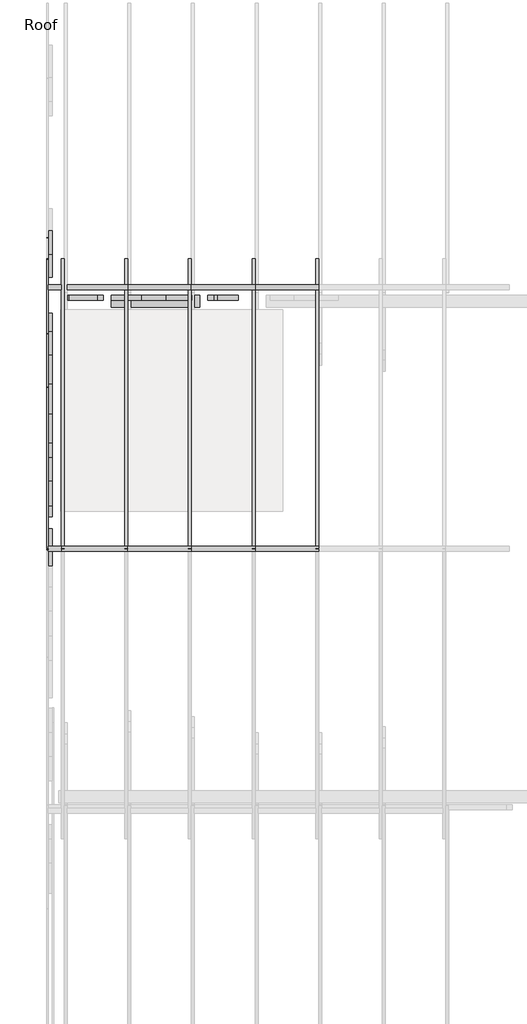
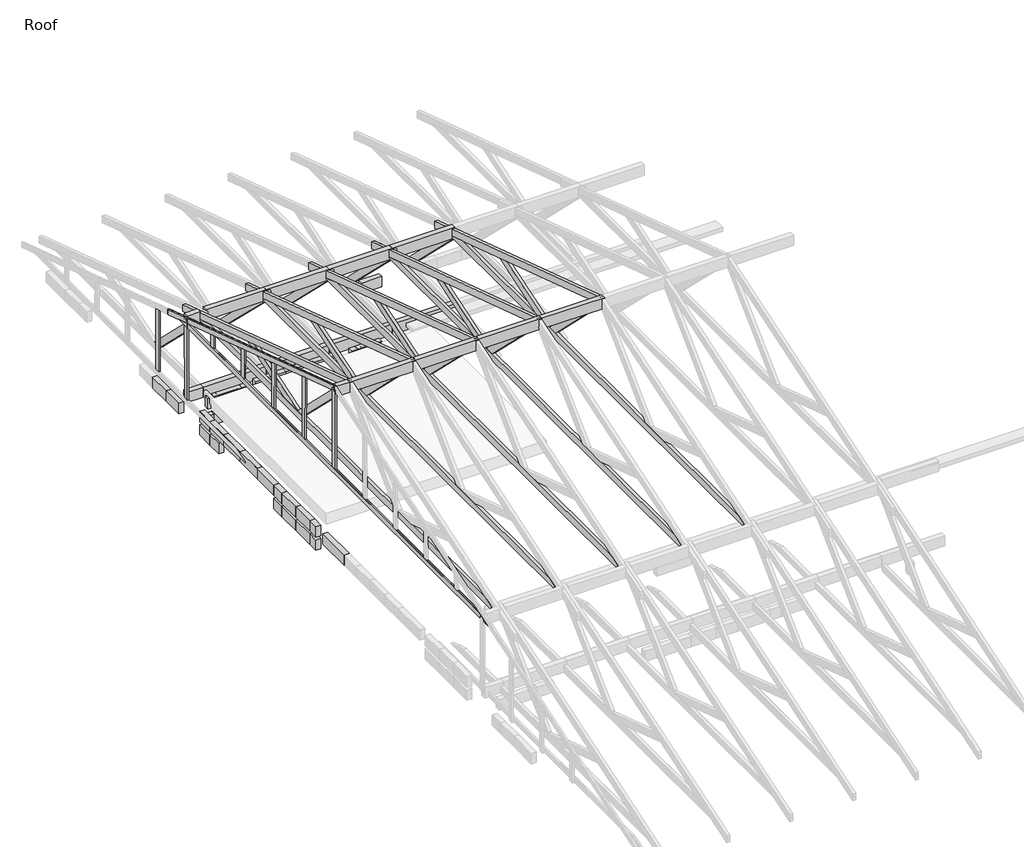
# One storey, part 3 of 5: 83 beams.
"""IFC4 building model written with IfcOpenShell, lengths in millimetres."""

from ifc_helpers import new_model, si_unit, frame, origin, place, context, project, spatial, polyline, outline, extrude, faceted_brep, transform, mapped, element, save
from components import beam_5691c770, beam_a14fae22, beam_a3a851c1, beam_51437148, beam_464ecb02, beam_fda0a2b8, experttrusspart_2_x_4_5d1fd198, experttrusspart_2_x_4_7bcd8695, beam_a2527db5, beam_27df2988, beam_13466e1a, beam_51b55d0f, beam_42965887, beam_8e5e3f5a, beam_c9832d0a, beam_8976df93, beam_ae29647c, beam_98c3b82b, beam_97ee1fa4, beam_d29d678d, beam_a4d90c35, beam_9d6aa0d6, beam_9a5d82eb, beam_3e93aa5a, beam_ed930484, beam_f3d449ce

model = new_model("IFC4")

# Units and contexts
model_context = context("Model", 3, world=origin())
ifc_project = project(units=[si_unit("LENGTHUNIT", "METRE", prefix="MILLI")], contexts=[model_context])

# Site, building, storey
site = spatial("IfcSite", under=ifc_project)
building = spatial("IfcBuilding", under=site)
storey = spatial("IfcBuildingStorey", under=building, Name="Roof", Elevation=4267.2)

# Beams
placement = place(None, origin())
element("IfcBeam", 1, ObjectType="BraceBeam : 1\" x 3\"", at=placement, inside=storey, context=model_context, shape_type="Brep", body=[
    faceted_brep([(-11532.8540766, -18312.6277279, 3403.00062), (-11513.8040766, -18312.6277279, 3403.00062), (-11513.8040766, -21970.2277279, 4596.80062), (-11532.8540766, -21970.2277279, 4596.80062), (-11513.8040766, -18312.6277279, 3436.3989898), (-11513.8040766, -18312.6277279, 3469.7973595), (-11513.8040766, -21970.2277279, 4663.5973595), (-11513.8040766, -21970.2277279, 4630.1989898), (-11532.8540766, -18312.6277279, 3469.7973595), (-11532.8540766, -21970.2277279, 4663.5973595), (-11532.8540766, -18312.6277279, 3436.3989898), (-11532.8540766, -21970.2277279, 4630.1989898)], [[[0, 1, 2, 3]], [[4, 5, 6, 7, 2, 1]], [[5, 8, 9, 6]], [[10, 0, 3, 11, 9, 8]], [[8, 5, 4, 1, 0, 10]], [[6, 9, 11, 3, 2, 7]]]),
    faceted_brep([(-11513.8040766, -18760.0431336, 3615.8287767), (-11513.8040766, -21970.2277279, 4663.5973595), (-11513.8040766, -21970.2277279, 4630.1989898), (-11513.8040766, -21970.2277279, 4596.80062), (-11513.8040766, -18760.0431336, 3549.0320372), (-11532.8540766, -21970.2277279, 4596.80062), (-11532.8540766, -18760.0431336, 3549.0320372), (-11532.8540766, -21970.2277279, 4663.5973595), (-11532.8540766, -21970.2277279, 4630.1989898), (-11532.8540766, -18760.0431336, 3615.8287767)], [[[0, 1, 2, 3, 4]], [[4, 3, 5, 6]], [[1, 7, 8, 5, 3, 2]], [[6, 5, 8, 7, 9]], [[9, 7, 1, 0]], [[4, 6, 9, 0]]]),
])
element("IfcBeam", 2, ObjectType="BraceBeam : 1\" x 3\"", at=placement, inside=storey, context=model_context, shape_type="Brep", body=[
    faceted_brep([(-11513.8040766, -25364.6841988, 3482.456975), (-11532.8540766, -25364.6841988, 3482.456975), (-11532.8540766, -18556.068475, 3482.456975), (-11513.8040766, -18556.068475, 3482.456975), (-11532.8540766, -25267.4076031, 3514.206975), (-11532.8540766, -25170.1310073, 3545.956975), (-11532.8540766, -18750.6216665, 3545.956975), (-11532.8540766, -18653.3450708, 3514.206975), (-11513.8040766, -25170.1310073, 3545.956975), (-11513.8040766, -18750.6216665, 3545.956975), (-11513.8040766, -25267.4076031, 3514.206975), (-11513.8040766, -18653.3450708, 3514.206975)], [[[0, 1, 2, 3]], [[4, 5, 6, 7, 2, 1]], [[5, 8, 9, 6]], [[10, 0, 3, 11, 9, 8]], [[8, 5, 4, 1, 0, 10]], [[6, 9, 11, 3, 2, 7]]]),
    faceted_brep([(-11513.8040766, -25364.6841988, 3482.456975), (-11532.8540766, -25364.6841988, 3482.456975), (-11532.8540766, -18760.0431336, 3482.456975), (-11513.8040766, -18760.0431336, 3482.456975), (-11513.8040766, -25170.1310073, 3545.956975), (-11532.8540766, -25170.1310073, 3545.956975), (-11532.8540766, -25267.4076031, 3514.206975), (-11513.8040766, -25267.4076031, 3514.206975), (-11532.8540766, -18760.0431336, 3545.956975), (-11513.8040766, -18760.0431336, 3545.956975)], [[[0, 1, 2, 3]], [[4, 5, 6, 1, 0, 7]], [[6, 5, 8, 2, 1]], [[7, 0, 3, 9, 4]], [[5, 4, 9, 8]], [[3, 2, 8, 9]]]),
    faceted_brep([(-11532.8540766, -25160.7763369, 3545.956975), (-11532.8540766, -18760.0431336, 3545.956975), (-11532.8540766, -18760.0431336, 3482.456975), (-11532.8540766, -25160.7763369, 3482.456975), (-11513.8040766, -18760.0431336, 3482.456975), (-11513.8040766, -25160.7763369, 3482.456975), (-11513.8040766, -18760.0431336, 3545.956975), (-11513.8040766, -25160.7763369, 3545.956975)], [[[0, 1, 2, 3]], [[3, 2, 4, 5]], [[4, 2, 1, 6]], [[5, 4, 6, 7]], [[7, 6, 1, 0]], [[3, 5, 7, 0]]]),
])
element("IfcBeam", 3, ObjectType="BraceBeam : 1\" x 3\"", at=placement, inside=storey, context=model_context, shape_type="SweptSolid", body=[
    extrude(outline(polyline([(1236.4407967, 0.0), (176.1684028, 0.0), (165.8055555, 31.75), (176.1684028, 63.4999999), (1236.4407967, 63.4999999), (1236.4407967, 0.0)])), frame((-11532.8540766, -18729.7582425, 3738.3724857), z_axis=(1.0, -1.9616564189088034e-12, 0.0), x_axis=(0.0, -0.0009999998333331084, -0.9999995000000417)), (0.0, 0.0, 1.0), 19.05),
])
element("IfcBeam", 4, ObjectType="BraceBeam : 1\" x 3\"", at=placement, inside=storey, context=model_context, shape_type="Brep", body=[
    faceted_brep([(-11513.8040766, -18302.7763369, 3399.7852354), (-11513.8040766, -21960.3763369, 4593.5852354), (-11532.8540766, -21960.3763369, 4593.5852354), (-11532.8540766, -18302.7763369, 3399.7852354), (-11532.8540766, -18302.7763369, 3433.1836052), (-11532.8540766, -21960.3763369, 4626.9836052), (-11532.8540766, -21960.3763369, 4660.381975), (-11532.8540766, -18302.7763369, 3466.581975), (-11513.8040766, -21960.3763369, 4660.381975), (-11513.8040766, -18302.7763369, 3466.581975), (-11513.8040766, -18302.7763369, 3433.1836052), (-11513.8040766, -21960.3763369, 4626.9836052)], [[[0, 1, 2, 3]], [[4, 3, 2, 5, 6, 7]], [[7, 6, 8, 9]], [[10, 9, 8, 11, 1, 0]], [[9, 10, 0, 3, 4, 7]], [[6, 5, 2, 1, 11, 8]]]),
])
beam_shape = beam_5691c770(model_context)
element("IfcBeam", 5, ObjectType="BraceBeam : 1\" x 3\"", at=placement, inside=storey, context=model_context, shape_type="MappedRepresentation", body=[
    mapped(beam_shape, transform((-11523.3290766, -21293.1737787, 3962.3751938), x_axis=(0.0, -0.009073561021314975, 0.9999588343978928), y_axis=(1.0, 0.0, 0.0), z_axis=(0.0, 0.9999588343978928, 0.009073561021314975))),
])
beam_2_shape = beam_a14fae22(model_context)
element("IfcBeam", 6, ObjectType="BraceBeam : 1\" x 3\"", at=placement, inside=storey, context=model_context, shape_type="MappedRepresentation", body=[
    mapped(beam_2_shape, transform((-11523.3290766, -20621.0005721, 3852.5327331), x_axis=(0.0, -0.009347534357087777, 0.9999563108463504), y_axis=(1.0, 0.0, 0.0), z_axis=(0.0, 0.9999563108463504, 0.009347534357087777))),
])
beam_3_shape = beam_a3a851c1(model_context)
element("IfcBeam", 7, ObjectType="BraceBeam : 1\" x 3\"", at=placement, inside=storey, context=model_context, shape_type="MappedRepresentation", body=[
    mapped(beam_3_shape, transform((-11523.3290766, -19948.8273655, 3742.6902724), x_axis=(0.0, -0.009884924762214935, 0.9999511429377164), y_axis=(1.0, 0.0, 0.0), z_axis=(0.0, 0.9999511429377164, 0.009884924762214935))),
])
beam_4_shape = beam_51437148(model_context)
element("IfcBeam", 8, ObjectType="BraceBeam : 1\" x 3\"", at=placement, inside=storey, context=model_context, shape_type="MappedRepresentation", body=[
    mapped(beam_4_shape, transform((-11523.3290766, -19276.6541589, 3632.8478118), x_axis=(0.0, -0.011417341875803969, 0.9999348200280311), y_axis=(1.0, 0.0, 0.0), z_axis=(0.0, 0.9999348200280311, 0.011417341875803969))),
])
beam_5_shape = beam_464ecb02(model_context)
element("IfcBeam", 9, ObjectType="BraceBeam : 1\" x 3\"", at=placement, inside=storey, context=model_context, shape_type="MappedRepresentation", body=[
    mapped(beam_5_shape, transform((-11523.3290766, -18065.8579037, 2913.1384019), x_axis=(0.0, -0.002024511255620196, 0.999997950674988), y_axis=(1.0, 0.0, 0.0), z_axis=(0.0, 0.999997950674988, 0.002024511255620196))),
])
beam_6_shape = beam_fda0a2b8(model_context)
element("IfcBeam", 10, ObjectType="BraceBeam : 1\" x 3\"", at=placement, inside=storey, context=model_context, shape_type="MappedRepresentation", body=[
    mapped(beam_6_shape, transform((-11523.3290766, -21959.8191245, 4103.1697536), x_axis=(0.0, -0.000999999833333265, 0.9999995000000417), y_axis=(1.0, 1.4638300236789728e-12, 0.0), z_axis=(-1.463829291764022e-12, 0.9999995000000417, 0.0009999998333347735))),
])
element("IfcBeam", 11, ObjectType="ExpertTrussPart : 2 x 4", at=placement, inside=storey, context=model_context, shape_type="SweptSolid", body=[
    extrude(outline(polyline([(-21793.4464104, 4512.3824664), (-20848.8530293, 3587.468114), (-20850.5374103, 3571.356975), (-20959.4672099, 3571.356975), (-21960.3763369, 4551.4138285), (-21960.3763369, 4566.8665396), (-21793.4464104, 4512.3824664)])), frame((-11346.7990766, 0.0, 0.0), z_axis=(1.0, 0.0, 0.0), x_axis=(0.0, 1.0, 0.0)), (0.0, 0.0, 1.0), 38.1),
])
element("IfcBeam", 12, ObjectType="ExpertTrussPart : 2 x 4", at=placement, inside=storey, context=model_context, shape_type="SweptSolid", body=[
    extrude(outline(polyline([(-19883.9561718, 3889.1460691), (-19812.3273277, 3865.7672102), (-19740.6984836, 3842.3883514), (-20571.0924881, 3571.356975), (-20850.5374103, 3571.356975), (-20850.2876203, 3573.7462213), (-19883.9561718, 3889.1460691)])), frame((-11346.7990766, 0.0, 0.0), z_axis=(1.0, 0.0, 0.0), x_axis=(0.0, 1.0, 0.0)), (0.0, 0.0, 1.0), 38.1),
])
element("IfcBeam", 13, ObjectType="ExpertTrussPart : 2 x 4", at=placement, inside=storey, context=model_context, shape_type="SweptSolid", body=[
    extrude(outline(polyline([(-21793.4464104, 4512.3824664), (-20848.8530293, 3587.468114), (-20850.5374103, 3571.356975), (-20959.4672099, 3571.356975), (-21960.3763369, 4551.4138285), (-21960.3763369, 4566.8665396), (-21793.4464104, 4512.3824664)])), frame((-10545.0057433, 0.0, 0.0), z_axis=(1.0, 0.0, 0.0), x_axis=(0.0, 1.0, 0.0)), (0.0, 0.0, 1.0), 38.1),
])
element("IfcBeam", 14, ObjectType="ExpertTrussPart : 2 x 4", at=placement, inside=storey, context=model_context, shape_type="SweptSolid", body=[
    extrude(outline(polyline([(-19883.9561718, 3889.1460691), (-19812.3273277, 3865.7672102), (-19740.6984836, 3842.3883514), (-20571.0924881, 3571.356975), (-20850.5374103, 3571.356975), (-20850.2876203, 3573.7462213), (-19883.9561718, 3889.1460691)])), frame((-10545.0057433, 0.0, 0.0), z_axis=(1.0, 0.0, 0.0), x_axis=(0.0, 1.0, 0.0)), (0.0, 0.0, 1.0), 38.1),
])
element("IfcBeam", 15, ObjectType="ExpertTrussPart : 2 x 4", at=placement, inside=storey, context=model_context, shape_type="SweptSolid", body=[
    extrude(outline(polyline([(-21793.4464104, 4512.3824664), (-20848.8530293, 3587.468114), (-20850.5374103, 3571.356975), (-20959.4672099, 3571.356975), (-21960.3763369, 4551.4138285), (-21960.3763369, 4566.8665396), (-21793.4464104, 4512.3824664)])), frame((-9743.2124099, 0.0, 0.0), z_axis=(1.0, 0.0, 0.0), x_axis=(0.0, 1.0, 0.0)), (0.0, 0.0, 1.0), 38.1),
])
element("IfcBeam", 16, ObjectType="ExpertTrussPart : 2 x 4", at=placement, inside=storey, context=model_context, shape_type="SweptSolid", body=[
    extrude(outline(polyline([(-19883.9561718, 3889.1460691), (-19812.3273277, 3865.7672102), (-19740.6984836, 3842.3883514), (-20571.0924881, 3571.356975), (-20850.5374103, 3571.356975), (-20850.2876203, 3573.7462213), (-19883.9561718, 3889.1460691)])), frame((-9743.2124099, 0.0, 0.0), z_axis=(1.0, 0.0, 0.0), x_axis=(0.0, 1.0, 0.0)), (0.0, 0.0, 1.0), 38.1),
])
element("IfcBeam", 17, ObjectType="ExpertTrussPart : 2 x 4", at=placement, inside=storey, context=model_context, shape_type="SweptSolid", body=[
    extrude(outline(polyline([(-21793.4464104, 4512.3824664), (-20848.8530293, 3587.468114), (-20850.5374103, 3571.356975), (-20959.4672099, 3571.356975), (-21960.3763369, 4551.4138285), (-21960.3763369, 4566.8665396), (-21793.4464104, 4512.3824664)])), frame((-8941.4190766, 0.0, 0.0), z_axis=(1.0, 0.0, 0.0), x_axis=(0.0, 1.0, 0.0)), (0.0, 0.0, 1.0), 38.1),
])
element("IfcBeam", 18, ObjectType="ExpertTrussPart : 2 x 4", at=placement, inside=storey, context=model_context, shape_type="SweptSolid", body=[
    extrude(outline(polyline([(-19883.9561718, 3889.1460691), (-19812.3273277, 3865.7672102), (-19740.6984836, 3842.3883514), (-20571.0924881, 3571.356975), (-20850.5374103, 3571.356975), (-20850.2876203, 3573.7462213), (-19883.9561718, 3889.1460691)])), frame((-8941.4190766, 0.0, 0.0), z_axis=(1.0, 0.0, 0.0), x_axis=(0.0, 1.0, 0.0)), (0.0, 0.0, 1.0), 38.1),
])
element("IfcBeam", 19, ObjectType="ExpertTrussPart : 2 x 4", at=placement, inside=storey, context=model_context, shape_type="SweptSolid", body=[
    extrude(outline(polyline([(-21793.4464104, 4512.3824664), (-20848.8530293, 3587.468114), (-20850.5374103, 3571.356975), (-20959.4672099, 3571.356975), (-21960.3763369, 4551.4138285), (-21960.3763369, 4566.8665396), (-21793.4464104, 4512.3824664)])), frame((-8139.6257433, 0.0, 0.0), z_axis=(1.0, 0.0, 0.0), x_axis=(0.0, 1.0, 0.0)), (0.0, 0.0, 1.0), 38.1),
])
element("IfcBeam", 20, ObjectType="ExpertTrussPart : 2 x 4", at=placement, inside=storey, context=model_context, shape_type="SweptSolid", body=[
    extrude(outline(polyline([(-19883.9561718, 3889.1460691), (-19812.3273277, 3865.7672102), (-19740.6984836, 3842.3883514), (-20571.0924881, 3571.356975), (-20850.5374103, 3571.356975), (-20850.2876203, 3573.7462213), (-19883.9561718, 3889.1460691)])), frame((-8139.6257433, 0.0, 0.0), z_axis=(1.0, 0.0, 0.0), x_axis=(0.0, 1.0, 0.0)), (0.0, 0.0, 1.0), 38.1),
])
element("IfcBeam", 21, ObjectType="ExpertTrussPart : 2 x 4", at=placement, inside=storey, context=model_context, shape_type="SweptSolid", body=[
    extrude(outline(polyline([(-18556.6000825, 3455.8898151), (-17624.7069666, 2543.4111391), (-17626.3913475, 2527.3), (-17735.3211471, 2527.3), (-18723.530009, 3494.9211772), (-18723.530009, 3510.3738883), (-18556.6000825, 3455.8898151)])), frame((-11308.6990766, 0.0, 0.0), z_axis=(1.0, 0.0, 0.0), x_axis=(0.0, 1.0, 0.0)), (0.0, 0.0, 1.0), 38.1),
])
element("IfcBeam", 22, ObjectType="ExpertTrussPart : 2 x 4", at=placement, inside=storey, context=model_context, shape_type="SweptSolid", body=[
    extrude(outline(polyline([(-18556.6000825, 3455.8898151), (-17624.7069666, 2543.4111391), (-17626.3913475, 2527.3), (-17735.3211471, 2527.3), (-18723.530009, 3494.9211772), (-18723.530009, 3510.3738883), (-18556.6000825, 3455.8898151)])), frame((-10506.9057433, 0.0, 0.0), z_axis=(1.0, 0.0, 0.0), x_axis=(0.0, 1.0, 0.0)), (0.0, 0.0, 1.0), 38.1),
])
element("IfcBeam", 23, ObjectType="ExpertTrussPart : 2 x 4", at=placement, inside=storey, context=model_context, shape_type="SweptSolid", body=[
    extrude(outline(polyline([(-18556.6000825, 3455.8898151), (-17624.7069666, 2543.4111391), (-17626.3913475, 2527.3), (-17735.3211471, 2527.3), (-18723.530009, 3494.9211772), (-18723.530009, 3510.3738883), (-18556.6000825, 3455.8898151)])), frame((-9705.1124099, 0.0, 0.0), z_axis=(1.0, 0.0, 0.0), x_axis=(0.0, 1.0, 0.0)), (0.0, 0.0, 1.0), 38.1),
])
element("IfcBeam", 24, ObjectType="ExpertTrussPart : 2 x 4", at=placement, inside=storey, context=model_context, shape_type="SweptSolid", body=[
    extrude(outline(polyline([(-18556.6000825, 3455.8898151), (-17624.7069666, 2543.4111391), (-17626.3913475, 2527.3), (-17735.3211471, 2527.3), (-18723.530009, 3494.9211772), (-18723.530009, 3510.3738883), (-18556.6000825, 3455.8898151)])), frame((-8903.3190766, 0.0, 0.0), z_axis=(1.0, 0.0, 0.0), x_axis=(0.0, 1.0, 0.0)), (0.0, 0.0, 1.0), 38.1),
])
element("IfcBeam", 25, ObjectType="ExpertTrussPart : 2 x 4", at=placement, inside=storey, context=model_context, shape_type="SweptSolid", body=[
    extrude(outline(polyline([(-18556.6000825, 3455.8898151), (-17624.7069666, 2543.4111391), (-17626.3913475, 2527.3), (-17735.3211471, 2527.3), (-18723.530009, 3494.9211772), (-18723.530009, 3510.3738883), (-18556.6000825, 3455.8898151)])), frame((-8101.5257433, 0.0, 0.0), z_axis=(1.0, 0.0, 0.0), x_axis=(0.0, 1.0, 0.0)), (0.0, 0.0, 1.0), 38.1),
])
experttrusspart_2_x_4_shape = experttrusspart_2_x_4_5d1fd198(model_context)
element("IfcBeam", 26, ObjectType="ExpertTrussPart : 2 x 4", at=placement, inside=storey, context=model_context, shape_type="MappedRepresentation", body=[
    mapped(experttrusspart_2_x_4_shape, transform((-11327.7490766, -21960.3763369, 3482.456975), x_axis=(0.0, -1.0, 0.0), y_axis=(1.0, 0.0, 0.0), z_axis=(0.0, 0.0, 1.0))),
])
element("IfcBeam", 27, ObjectType="ExpertTrussPart : 2 x 4", at=placement, inside=storey, context=model_context, shape_type="MappedRepresentation", body=[
    mapped(experttrusspart_2_x_4_shape, transform((-10525.9557433, -21960.3763369, 3482.456975), x_axis=(0.0, -1.0, 0.0), y_axis=(1.0, 0.0, 0.0), z_axis=(0.0, 0.0, 1.0))),
])
element("IfcBeam", 28, ObjectType="ExpertTrussPart : 2 x 4", at=placement, inside=storey, context=model_context, shape_type="MappedRepresentation", body=[
    mapped(experttrusspart_2_x_4_shape, transform((-9724.1624099, -21960.3763369, 3482.456975), x_axis=(0.0, -1.0, 0.0), y_axis=(1.0, 0.0, 0.0), z_axis=(0.0, 0.0, 1.0))),
])
element("IfcBeam", 29, ObjectType="ExpertTrussPart : 2 x 4", at=placement, inside=storey, context=model_context, shape_type="MappedRepresentation", body=[
    mapped(experttrusspart_2_x_4_shape, transform((-8922.3690766, -21960.3763369, 3482.456975), x_axis=(0.0, -1.0, 0.0), y_axis=(1.0, 0.0, 0.0), z_axis=(0.0, 0.0, 1.0))),
])
element("IfcBeam", 30, ObjectType="ExpertTrussPart : 2 x 4", at=placement, inside=storey, context=model_context, shape_type="MappedRepresentation", body=[
    mapped(experttrusspart_2_x_4_shape, transform((-8120.5757433, -21960.3763369, 3482.456975), x_axis=(0.0, -1.0, 0.0), y_axis=(1.0, 0.0, 0.0), z_axis=(0.0, 0.0, 1.0))),
])
experttrusspart_2_x_4_2_shape = experttrusspart_2_x_4_7bcd8695(model_context)
element("IfcBeam", 31, ObjectType="ExpertTrussPart : 2 x 4", at=placement, inside=storey, context=model_context, shape_type="MappedRepresentation", body=[
    mapped(experttrusspart_2_x_4_2_shape, transform((-11327.7490766, -20145.3682843, 3974.468078), x_axis=(0.0, 0.950645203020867, -0.3102800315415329), y_axis=(-1.0, 0.0, 0.0), z_axis=(0.0, 0.3102800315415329, 0.950645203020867))),
])
element("IfcBeam", 32, ObjectType="ExpertTrussPart : 2 x 4", at=placement, inside=storey, context=model_context, shape_type="MappedRepresentation", body=[
    mapped(experttrusspart_2_x_4_2_shape, transform((-10525.9557433, -20145.3682843, 3974.468078), x_axis=(0.0, 0.950645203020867, -0.3102800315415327), y_axis=(-1.0, 0.0, 0.0), z_axis=(0.0, 0.3102800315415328, 0.9506452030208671))),
])
element("IfcBeam", 33, ObjectType="ExpertTrussPart : 2 x 4", at=placement, inside=storey, context=model_context, shape_type="MappedRepresentation", body=[
    mapped(experttrusspart_2_x_4_2_shape, transform((-9724.1624099, -20145.3682843, 3974.468078), x_axis=(0.0, 0.9506452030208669, -0.310280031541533), y_axis=(-1.0, 0.0, 0.0), z_axis=(0.0, 0.31028003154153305, 0.950645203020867))),
])
element("IfcBeam", 34, ObjectType="ExpertTrussPart : 2 x 4", at=placement, inside=storey, context=model_context, shape_type="MappedRepresentation", body=[
    mapped(experttrusspart_2_x_4_2_shape, transform((-8922.3690766, -20145.3682843, 3974.468078), x_axis=(0.0, 0.950645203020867, -0.310280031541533), y_axis=(-1.0, 0.0, 0.0), z_axis=(0.0, 0.310280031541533, 0.950645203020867))),
])
element("IfcBeam", 35, ObjectType="ExpertTrussPart : 2 x 4", at=placement, inside=storey, context=model_context, shape_type="MappedRepresentation", body=[
    mapped(experttrusspart_2_x_4_2_shape, transform((-8120.5757433, -20145.3682843, 3974.468078), x_axis=(0.0, 0.950645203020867, -0.31028003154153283), y_axis=(-1.0, 0.0, 0.0), z_axis=(0.0, 0.3102800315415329, 0.9506452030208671))),
])
element("IfcBeam", 36, ObjectType="Rectangular(Timber)-Beam : Timber_0' - 1 31/32\" x0' - 5 29/32\" _ContentGenerator", at=placement, inside=storey, context=model_context, shape_type="SweptSolid", body=[
    extrude(outline(polyline([(-9599.2790766, -18759.9763369), (-9599.2790766, -18912.3763369), (-10716.879076, -18912.3763369), (-10716.879076, -18759.9763369), (-9599.2790766, -18759.9763369)])), frame((0.0, 0.0, 2336.8), z_axis=(0.0, 0.0, 1.0), x_axis=(1.0, 0.0, 0.0)), (0.0, 0.0, 1.0), 50.8),
])
element("IfcBeam", 37, ObjectType="WallPlates : 6\" x 3\"", at=placement, inside=storey, context=model_context, shape_type="SweptSolid", body=[
    extrude(outline(polyline([(-10716.8790766, -18826.6513369), (-10716.8790766, -18763.1513369), (-10335.8790766, -18763.1513369), (-10335.8790766, -18826.6513369), (-10716.8790766, -18826.6513369)])), frame((0.0, 0.0, 2387.6), z_axis=(0.0, 0.0, 1.0), x_axis=(1.0, 0.0, 0.0)), (0.0, 0.0, 1.0), 139.7),
    extrude(outline(polyline([(-10615.2790766, -18763.1513369), (-10335.8790766, -18763.1513369), (-10335.8790766, -18826.6513369), (-10615.2790766, -18826.6513369), (-10615.2790766, -18763.1513369)])), frame((0.0, 0.0, 2387.6), z_axis=(0.0, 0.0, 1.0), x_axis=(1.0, 0.0, 0.0)), (0.0, 0.0, 1.0), 139.7),
])
element("IfcBeam", 38, ObjectType="WallPlates : 6\" x 3\"", at=placement, inside=storey, context=model_context, shape_type="SweptSolid", body=[
    extrude(outline(polyline([(-10335.8790766, -18826.6513369), (-10335.8790766, -18763.1513369), (-10031.0790766, -18763.1513369), (-10031.0790766, -18826.6513369), (-10335.8790766, -18826.6513369)])), frame((0.0, 0.0, 2387.6), z_axis=(0.0, 0.0, 1.0), x_axis=(1.0, 0.0, 0.0)), (0.0, 0.0, 1.0), 139.7),
    extrude(outline(polyline([(-10285.0790766, -18763.1513369), (-10031.0790766, -18763.1513369), (-10031.0790766, -18826.6513369), (-10285.0790766, -18826.6513369), (-10285.0790766, -18763.1513369)])), frame((0.0, 0.0, 2387.6), z_axis=(0.0, 0.0, 1.0), x_axis=(1.0, 0.0, 0.0)), (0.0, 0.0, 1.0), 139.7),
])
element("IfcBeam", 39, ObjectType="WallPlates : 6\" x 3\"", at=placement, inside=storey, context=model_context, shape_type="SweptSolid", body=[
    extrude(outline(polyline([(-10031.0790766, -18826.6513369), (-10031.0790766, -18763.1513369), (-9700.8790766, -18763.1513369), (-9700.8790766, -18826.6513369), (-10031.0790766, -18826.6513369)])), frame((0.0, 0.0, 2387.6), z_axis=(0.0, 0.0, 1.0), x_axis=(1.0, 0.0, 0.0)), (0.0, 0.0, 1.0), 139.7),
    extrude(outline(polyline([(-9980.2790766, -18763.1513369), (-9700.8790766, -18763.1513369), (-9700.8790766, -18826.6513369), (-9980.2790766, -18826.6513369), (-9980.2790766, -18763.1513369)])), frame((0.0, 0.0, 2387.6), z_axis=(0.0, 0.0, 1.0), x_axis=(1.0, 0.0, 0.0)), (0.0, 0.0, 1.0), 139.7),
])
element("IfcBeam", 40, ObjectType="WallPlates : 6\" x 3\"", at=placement, inside=storey, context=model_context, shape_type="SweptSolid", body=[
    extrude(outline(polyline([(-9421.4790766, -18826.6513369), (-9421.4790766, -18763.1513369), (-9116.6790766, -18763.1513369), (-9116.6790766, -18826.6513369), (-9421.4790766, -18826.6513369)])), frame((0.0, 0.0, 2368.55), z_axis=(0.0, 0.0, 1.0), x_axis=(1.0, 0.0, 0.0)), (0.0, 0.0, 1.0), 139.7),
    extrude(outline(polyline([(-9370.6790766, -18763.1513369), (-9116.6790766, -18763.1513369), (-9116.6790766, -18826.6513369), (-9370.6790766, -18826.6513369), (-9370.6790766, -18763.1513369)])), frame((0.0, 0.0, 2368.55), z_axis=(0.0, 0.0, 1.0), x_axis=(1.0, 0.0, 0.0)), (0.0, 0.0, 1.0), 139.7),
])
element("IfcBeam", 41, ObjectType="WallPlates : 6\" x 3\"", at=placement, inside=storey, context=model_context, shape_type="SweptSolid", body=[
    extrude(outline(polyline([(-11250.2790766, -18826.6513369), (-11250.2790766, -18763.1513369), (-10945.4790766, -18763.1513369), (-10945.4790766, -18826.6513369), (-11250.2790766, -18826.6513369)])), frame((0.0, 0.0, 2133.6), z_axis=(0.0, 0.0, 1.0), x_axis=(1.0, 0.0, 0.0)), (0.0, 0.0, 1.0), 139.7),
    extrude(outline(polyline([(-11199.4790766, -18763.1513369), (-10945.4790766, -18763.1513369), (-10945.4790766, -18826.6513369), (-11199.4790766, -18826.6513369), (-11199.4790766, -18763.1513369)])), frame((0.0, 0.0, 2133.6), z_axis=(0.0, 0.0, 1.0), x_axis=(1.0, 0.0, 0.0)), (0.0, 0.0, 1.0), 139.7),
])
element("IfcBeam", 42, ObjectType="WallPlates : 6\" x 3\"", at=placement, inside=storey, context=model_context, shape_type="SweptSolid", body=[
    extrude(outline(polyline([(-10945.4790766, -18826.6513369), (-10945.4790766, -18763.1513369), (-10818.4790766, -18763.1513369), (-10818.4790766, -18826.6513369), (-10945.4790766, -18826.6513369)])), frame((0.0, 0.0, 2133.6), z_axis=(0.0, 0.0, 1.0), x_axis=(1.0, 0.0, 0.0)), (0.0, 0.0, 1.0), 139.7),
    extrude(outline(polyline([(-10894.6790766, -18763.1513369), (-10818.4790766, -18763.1513369), (-10818.4790766, -18826.6513369), (-10894.6790766, -18826.6513369), (-10894.6790766, -18763.1513369)])), frame((0.0, 0.0, 2133.6), z_axis=(0.0, 0.0, 1.0), x_axis=(1.0, 0.0, 0.0)), (0.0, 0.0, 1.0), 139.7),
])
element("IfcBeam", 43, ObjectType="WallPlates : 6\" x 3\"", at=placement, inside=storey, context=model_context, shape_type="SweptSolid", body=[
    extrude(outline(polyline([(-9421.4790766, -18826.6513369), (-9421.4790766, -18763.1513369), (-9116.6790766, -18763.1513369), (-9116.6790766, -18826.6513369), (-9421.4790766, -18826.6513369)])), frame((0.0, 0.0, 2133.6), z_axis=(0.0, 0.0, 1.0), x_axis=(1.0, 0.0, 0.0)), (0.0, 0.0, 1.0), 139.7),
    extrude(outline(polyline([(-9370.6790766, -18763.1513369), (-9116.6790766, -18763.1513369), (-9116.6790766, -18826.6513369), (-9370.6790766, -18826.6513369), (-9370.6790766, -18763.1513369)])), frame((0.0, 0.0, 2133.6), z_axis=(0.0, 0.0, 1.0), x_axis=(1.0, 0.0, 0.0)), (0.0, 0.0, 1.0), 139.7),
])
element("IfcBeam", 44, ObjectType="WallPlates : 6\" x 3\"", at=placement, inside=storey, context=model_context, shape_type="SweptSolid", body=[
    extrude(outline(polyline([(-11250.2790766, -18826.6513369), (-11250.2790766, -18763.1513369), (-10894.6790766, -18763.1513369), (-10894.6790766, -18826.6513369), (-11250.2790766, -18826.6513369)])), frame((0.0, 0.0, 2368.55), z_axis=(0.0, 0.0, 1.0), x_axis=(1.0, 0.0, 0.0)), (0.0, 0.0, 1.0), 139.7),
    extrude(outline(polyline([(-11250.2790766, -18826.6513369), (-11250.2790766, -18763.1513369), (-10945.4790766, -18763.1513369), (-10945.4790766, -18826.6513369), (-11250.2790766, -18826.6513369)])), frame((0.0, 0.0, 2368.55), z_axis=(0.0, 0.0, 1.0), x_axis=(1.0, 0.0, 0.0)), (0.0, 0.0, 1.0), 139.7),
    extrude(outline(polyline([(-11199.4790766, -18763.1513369), (-10945.4790766, -18763.1513369), (-10945.4790766, -18826.6513369), (-11199.4790766, -18826.6513369), (-11199.4790766, -18763.1513369)])), frame((0.0, 0.0, 2368.55), z_axis=(0.0, 0.0, 1.0), x_axis=(1.0, 0.0, 0.0)), (0.0, 0.0, 1.0), 139.7),
])
beam_7_shape = beam_a2527db5(model_context)
element("IfcBeam", 45, ObjectType="WallPlates : 6\" x 3\"", at=placement, inside=storey, context=model_context, shape_type="MappedRepresentation", body=[
    mapped(beam_7_shape, transform((-9304.2157433, -18658.4431336, 3534.2048183), x_axis=(-1.0000000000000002, 0.0, 0.0), y_axis=(0.0, 0.0, -1.0000000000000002), z_axis=(0.0, -1.0000000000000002, 0.0))),
])
element("IfcBeam", 46, ObjectType="WallPlates : 6\" x 3\"", at=placement, inside=storey, context=model_context, shape_type="MappedRepresentation", body=[
    mapped(beam_7_shape, transform((-10907.8024099, -18658.4431336, 2508.25), x_axis=(-1.0000000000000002, 0.0, 0.0), y_axis=(0.0, 0.0, -1.0000000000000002), z_axis=(0.0, -1.0000000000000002, 0.0))),
])
element("IfcBeam", 47, ObjectType="WallPlates : 6\" x 3\"", at=placement, inside=storey, context=model_context, shape_type="MappedRepresentation", body=[
    mapped(beam_7_shape, transform((-10106.0090766, -18658.4431336, 2508.25), x_axis=(-1.0000000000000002, 0.0, 0.0), y_axis=(0.0, 0.0, -1.0000000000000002), z_axis=(0.0, -1.0000000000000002, 0.0))),
])
element("IfcBeam", 48, ObjectType="WallPlates : 6\" x 3\"", at=placement, inside=storey, context=model_context, shape_type="MappedRepresentation", body=[
    mapped(beam_7_shape, transform((-9304.2157433, -18658.4431336, 2508.25), x_axis=(-1.0000000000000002, 0.0, 0.0), y_axis=(0.0, 0.0, -1.0000000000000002), z_axis=(0.0, -1.0000000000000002, 0.0))),
])
element("IfcBeam", 49, ObjectType="WallPlates : 6\" x 3\"", at=placement, inside=storey, context=model_context, shape_type="MappedRepresentation", body=[
    mapped(beam_7_shape, transform((-8502.4224099, -18658.4431336, 2508.25), x_axis=(-1.0000000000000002, 0.0, 0.0), y_axis=(0.0, 0.0, -1.0000000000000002), z_axis=(0.0, -1.0000000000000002, 0.0))),
])
element("IfcBeam", 50, ObjectType="WallPlates : 6\" x 3\"", at=placement, inside=storey, context=model_context, shape_type="MappedRepresentation", body=[
    mapped(beam_7_shape, transform((-8502.4224099, -18658.4431336, 3534.2048183), x_axis=(-1.0000000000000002, 0.0, 0.0), y_axis=(0.0, 0.0, -1.0000000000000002), z_axis=(0.0, -1.0000000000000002, 0.0))),
])
element("IfcBeam", 51, ObjectType="WallPlates : 6\" x 3\"", at=placement, inside=storey, context=model_context, shape_type="MappedRepresentation", body=[
    mapped(beam_7_shape, transform((-8502.4224099, -21960.3763369, 4590.531975), x_axis=(-1.0000000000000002, 0.0, 0.0), y_axis=(0.0, 0.0, -1.0000000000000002), z_axis=(0.0, -1.0000000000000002, 0.0))),
])
element("IfcBeam", 52, ObjectType="WallPlates : 6\" x 3\"", at=placement, inside=storey, context=model_context, shape_type="MappedRepresentation", body=[
    mapped(beam_7_shape, transform((-9304.2157433, -21960.3763369, 4590.531975), x_axis=(-1.0000000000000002, 0.0, 0.0), y_axis=(0.0, 0.0, -1.0000000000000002), z_axis=(0.0, -1.0000000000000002, 0.0))),
])
element("IfcBeam", 53, ObjectType="WallPlates : 6\" x 3\"", at=placement, inside=storey, context=model_context, shape_type="MappedRepresentation", body=[
    mapped(beam_7_shape, transform((-10106.0090766, -21960.3763369, 4590.531975), x_axis=(-1.0000000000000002, 0.0, 0.0), y_axis=(0.0, 0.0, -1.0000000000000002), z_axis=(0.0, -1.0000000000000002, 0.0))),
])
beam_8_shape = beam_27df2988(model_context)
element("IfcBeam", 54, ObjectType="WallPlates : 6\" x 3\"", at=placement, inside=storey, context=model_context, shape_type="MappedRepresentation", body=[
    mapped(beam_8_shape, transform((-10888.7524099, -18658.4431336, 3533.256975), x_axis=(-1.0000000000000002, 0.0, 0.0), y_axis=(0.0, 0.0, -1.0000000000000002), z_axis=(0.0, -1.0000000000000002, 0.0))),
])
element("IfcBeam", 55, ObjectType="WallPlates : 6\" x 3\"", at=placement, inside=storey, context=model_context, shape_type="MappedRepresentation", body=[
    mapped(beam_7_shape, transform((-10106.0090766, -18658.4431336, 3533.256975), x_axis=(-1.0000000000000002, 0.0, 0.0), y_axis=(0.0, 0.0, -1.0000000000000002), z_axis=(0.0, -1.0000000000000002, 0.0))),
])
beam_9_shape = beam_13466e1a(model_context)
element("IfcBeam", 56, ObjectType="WallPlates : 6\" x 3\"", at=placement, inside=storey, context=model_context, shape_type="MappedRepresentation", body=[
    mapped(beam_9_shape, transform((-11494.7540766, -18391.7097353, 2266.95), x_axis=(0.0, 1.0000000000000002, 0.0), y_axis=(0.0, 0.0, -1.0000000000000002), z_axis=(-1.0000000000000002, 0.0, 0.0))),
])
beam_10_shape = beam_51b55d0f(model_context)
element("IfcBeam", 57, ObjectType="WallPlates : 6\" x 3\"", at=placement, inside=storey, context=model_context, shape_type="MappedRepresentation", body=[
    mapped(beam_10_shape, transform((-11494.7540766, -20715.7813369, 2260.6), x_axis=(0.0, -1.0000000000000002, 0.0), y_axis=(0.0, 0.0, -1.0000000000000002), z_axis=(1.0000000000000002, 0.0, 0.0))),
])
beam_11_shape = beam_42965887(model_context)
element("IfcBeam", 58, ObjectType="WallPlates : 6\" x 3\"", at=placement, inside=storey, context=model_context, shape_type="MappedRepresentation", body=[
    mapped(beam_11_shape, transform((-10926.8524099, -21960.3763369, 4590.531975), x_axis=(-1.0000000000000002, 0.0, 0.0), y_axis=(0.0, 0.0, -1.0000000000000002), z_axis=(0.0, -1.0000000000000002, 0.0))),
])
beam_12_shape = beam_8e5e3f5a(model_context)
element("IfcBeam", 59, ObjectType="WallPlates : 6\" x 3\"", at=placement, inside=storey, context=model_context, shape_type="MappedRepresentation", body=[
    mapped(beam_12_shape, transform((-11430.3015766, -21960.3763369, 4590.531975), x_axis=(-1.0000000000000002, 0.0, 0.0), y_axis=(0.0, 0.0, -1.0000000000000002), z_axis=(0.0, -1.0000000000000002, 0.0))),
])
element("IfcBeam", 60, ObjectType="WallPlates : 6\" x 3\"", at=placement, inside=storey, context=model_context, shape_type="MappedRepresentation", body=[
    mapped(beam_12_shape, transform((-11430.3015766, -18658.4431336, 3534.2048183), x_axis=(-1.0000000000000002, 0.0, 0.0), y_axis=(0.0, 0.0, -1.0000000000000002), z_axis=(0.0, -1.0000000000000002, 0.0))),
])
beam_13_shape = beam_c9832d0a(model_context)
element("IfcBeam", 61, ObjectType="WallPlates : 6\" x 3\"", at=placement, inside=storey, context=model_context, shape_type="MappedRepresentation", body=[
    mapped(beam_13_shape, transform((-11415.3790766, -18658.4431336, 2508.25), x_axis=(-1.0000000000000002, 0.0, 0.0), y_axis=(0.0, 0.0, -1.0000000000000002), z_axis=(0.0, -1.0000000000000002, 0.0))),
])
beam_14_shape = beam_8976df93(model_context)
element("IfcBeam", 62, ObjectType="WallPlates : 6\" x 3\"", at=placement, inside=storey, context=model_context, shape_type="MappedRepresentation", body=[
    mapped(beam_14_shape, transform((-11494.7540766, -21484.1313369, 2438.4), x_axis=(0.0, -1.0000000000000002, 0.0), y_axis=(0.0, 0.0, -1.0000000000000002), z_axis=(1.0000000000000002, 0.0, 0.0))),
])
element("IfcBeam", 63, ObjectType="WallPlates : 6\" x 3\"", at=placement, inside=storey, context=model_context, shape_type="MappedRepresentation", body=[
    mapped(beam_14_shape, transform((-11494.7540766, -21484.1313369, 2260.6), x_axis=(0.0, -1.0000000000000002, 0.0), y_axis=(0.0, 0.0, -1.0000000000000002), z_axis=(1.0000000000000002, 0.0, 0.0))),
])
beam_15_shape = beam_ae29647c(model_context)
element("IfcBeam", 64, ObjectType="WallPlates : 6\" x 3\"", at=placement, inside=storey, context=model_context, shape_type="MappedRepresentation", body=[
    mapped(beam_15_shape, transform((-11494.7540766, -21943.4480036, 2438.4), x_axis=(0.0, -1.0000000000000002, 0.0), y_axis=(0.0, 0.0, -1.0000000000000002), z_axis=(1.0000000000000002, 0.0, 0.0))),
])
beam_16_shape = beam_98c3b82b(model_context)
element("IfcBeam", 65, ObjectType="WallPlates : 6\" x 3\"", at=placement, inside=storey, context=model_context, shape_type="MappedRepresentation", body=[
    mapped(beam_16_shape, transform((-11494.7540766, -19312.4413369, 2260.6), x_axis=(0.0, -1.0000000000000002, 0.0), y_axis=(0.0, 0.0, -1.0000000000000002), z_axis=(1.0000000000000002, 0.0, 0.0))),
])
beam_17_shape = beam_97ee1fa4(model_context)
element("IfcBeam", 66, ObjectType="WallPlates : 6\" x 3\"", at=placement, inside=storey, context=model_context, shape_type="MappedRepresentation", body=[
    mapped(beam_17_shape, transform((-9459.5790766, -18794.9013369, 2438.4), x_axis=(1.0000000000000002, 0.0, 0.0), y_axis=(0.0, 0.0, -1.0000000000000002), z_axis=(0.0, 1.0000000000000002, 0.0))),
])
element("IfcBeam", 67, ObjectType="WallPlates : 6\" x 3\"", at=placement, inside=storey, context=model_context, shape_type="MappedRepresentation", body=[
    mapped(beam_17_shape, transform((-9459.5790766, -18794.9013369, 2203.45), x_axis=(1.0000000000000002, 0.0, 0.0), y_axis=(0.0, 0.0, -1.0000000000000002), z_axis=(0.0, 1.0000000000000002, 0.0))),
])
beam_18_shape = beam_d29d678d(model_context)
element("IfcBeam", 68, ObjectType="WallPlates : 6\" x 3\"", at=placement, inside=storey, context=model_context, shape_type="MappedRepresentation", body=[
    mapped(beam_18_shape, transform((-11288.3740766, -18794.9013369, 2438.4), x_axis=(1.0000000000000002, 0.0, 0.0), y_axis=(0.0, 0.0, -1.0000000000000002), z_axis=(0.0, 1.0000000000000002, 0.0))),
])
element("IfcBeam", 69, ObjectType="WallPlates : 6\" x 3\"", at=placement, inside=storey, context=model_context, shape_type="MappedRepresentation", body=[
    mapped(beam_18_shape, transform((-11288.3740766, -18794.9013369, 2203.45), x_axis=(1.0000000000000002, 0.0, 0.0), y_axis=(0.0, 0.0, -1.0000000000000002), z_axis=(0.0, 1.0000000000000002, 0.0))),
])
element("IfcBeam", 70, ObjectType="WallPlates : 6\" x 3\"", at=placement, inside=storey, context=model_context, shape_type="MappedRepresentation", body=[
    mapped(beam_17_shape, transform((-10856.5790766, -18794.9013369, 2438.4), x_axis=(1.0000000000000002, 0.0, 0.0), y_axis=(0.0, 0.0, -1.0000000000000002), z_axis=(0.0, 1.0000000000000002, 0.0))),
])
beam_19_shape = beam_a4d90c35(model_context)
element("IfcBeam", 71, ObjectType="WallPlates : 6\" x 3\"", at=placement, inside=storey, context=model_context, shape_type="MappedRepresentation", body=[
    mapped(beam_19_shape, transform((-9243.6790766, -18794.9013369, 3311.006975), x_axis=(1.0000000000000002, 0.0, 0.0), y_axis=(0.0, 0.0, -1.0000000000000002), z_axis=(0.0, 1.0000000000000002, 0.0))),
])
beam_20_shape = beam_9d6aa0d6(model_context)
element("IfcBeam", 72, ObjectType="WallPlates : 6\" x 3\"", at=placement, inside=storey, context=model_context, shape_type="MappedRepresentation", body=[
    mapped(beam_20_shape, transform((-11494.7540766, -20957.0763369, 2438.4), x_axis=(0.0, -1.0000000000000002, 0.0), y_axis=(0.0, 0.0, -1.0000000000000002), z_axis=(1.0000000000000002, 0.0, 0.0))),
])
element("IfcBeam", 73, ObjectType="WallPlates : 6\" x 3\"", at=placement, inside=storey, context=model_context, shape_type="MappedRepresentation", body=[
    mapped(beam_20_shape, transform((-11494.7540766, -21261.8763369, 2438.4), x_axis=(0.0, -1.0000000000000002, 0.0), y_axis=(0.0, 0.0, -1.0000000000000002), z_axis=(1.0000000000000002, 0.0, 0.0))),
])
element("IfcBeam", 74, ObjectType="WallPlates : 6\" x 3\"", at=placement, inside=storey, context=model_context, shape_type="MappedRepresentation", body=[
    mapped(beam_20_shape, transform((-11494.7540766, -18099.6431336, 2266.95), x_axis=(0.0, 1.0000000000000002, 0.0), y_axis=(0.0, 0.0, -1.0000000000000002), z_axis=(-1.0000000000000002, 0.0, 0.0))),
])
element("IfcBeam", 75, ObjectType="WallPlates : 6\" x 3\"", at=placement, inside=storey, context=model_context, shape_type="MappedRepresentation", body=[
    mapped(beam_20_shape, transform((-11494.7540766, -20957.0763369, 2260.6), x_axis=(0.0, -1.0000000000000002, 0.0), y_axis=(0.0, 0.0, -1.0000000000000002), z_axis=(1.0000000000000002, 0.0, 0.0))),
])
element("IfcBeam", 76, ObjectType="WallPlates : 6\" x 3\"", at=placement, inside=storey, context=model_context, shape_type="MappedRepresentation", body=[
    mapped(beam_20_shape, transform((-11494.7540766, -21261.8763369, 2260.6), x_axis=(0.0, -1.0000000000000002, 0.0), y_axis=(0.0, 0.0, -1.0000000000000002), z_axis=(1.0000000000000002, 0.0, 0.0))),
])
beam_21_shape = beam_9a5d82eb(model_context)
element("IfcBeam", 77, ObjectType="WallPlates : 6\" x 3\"", at=placement, inside=storey, context=model_context, shape_type="MappedRepresentation", body=[
    mapped(beam_21_shape, transform((-11494.7540766, -19102.8813369, 2438.4), x_axis=(0.0, -1.0000000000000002, 0.0), y_axis=(0.0, 0.0, -1.0000000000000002), z_axis=(1.0000000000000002, 0.0, 0.0))),
])
element("IfcBeam", 78, ObjectType="WallPlates : 6\" x 3\"", at=placement, inside=storey, context=model_context, shape_type="MappedRepresentation", body=[
    mapped(beam_21_shape, transform((-11494.7540766, -19102.8813369, 2260.6), x_axis=(0.0, -1.0000000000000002, 0.0), y_axis=(0.0, 0.0, -1.0000000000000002), z_axis=(1.0000000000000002, 0.0, 0.0))),
])
element("IfcBeam", 79, ObjectType="WallPlates : 6\" x 3\"", at=placement, inside=storey, context=model_context, shape_type="MappedRepresentation", body=[
    mapped(beam_10_shape, transform((-11494.7540766, -20715.7813369, 2438.4), x_axis=(0.0, -1.0000000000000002, 0.0), y_axis=(0.0, 0.0, -1.0000000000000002), z_axis=(1.0000000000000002, 0.0, 0.0))),
])
beam_22_shape = beam_3e93aa5a(model_context)
element("IfcBeam", 80, ObjectType="WallPlates : 6\" x 3\"", at=placement, inside=storey, context=model_context, shape_type="MappedRepresentation", body=[
    mapped(beam_22_shape, transform((-11494.7540766, -19363.2313369, 2438.4), x_axis=(0.0, -1.0000000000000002, 0.0), y_axis=(0.0, 0.0, -1.0000000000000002), z_axis=(1.0000000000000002, 0.0, 0.0))),
])
beam_23_shape = beam_ed930484(model_context)
element("IfcBeam", 81, ObjectType="WallPlates : 6\" x 3\"", at=placement, inside=storey, context=model_context, shape_type="MappedRepresentation", body=[
    mapped(beam_23_shape, transform((-11494.7540766, -20068.0713369, 2438.4), x_axis=(0.0, -1.0000000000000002, 0.0), y_axis=(0.0, 0.0, -1.0000000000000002), z_axis=(1.0000000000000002, 0.0, 0.0))),
])
element("IfcBeam", 82, ObjectType="WallPlates : 6\" x 3\"", at=placement, inside=storey, context=model_context, shape_type="MappedRepresentation", body=[
    mapped(beam_23_shape, transform((-11494.7540766, -19695.5480036, 2438.4), x_axis=(0.0, -1.0000000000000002, 0.0), y_axis=(0.0, 0.0, -1.0000000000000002), z_axis=(1.0000000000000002, 0.0, 0.0))),
])
beam_24_shape = beam_f3d449ce(model_context)
element("IfcBeam", 83, ObjectType="WallPlates : 6\" x 3\"", at=placement, inside=storey, context=model_context, shape_type="MappedRepresentation", body=[
    mapped(beam_24_shape, transform((-11494.7540766, -20415.2146702, 2438.4), x_axis=(0.0, -1.0000000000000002, 0.0), y_axis=(0.0, 0.0, -1.0000000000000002), z_axis=(1.0000000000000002, 0.0, 0.0))),
])

save(model, "model.ifc")
